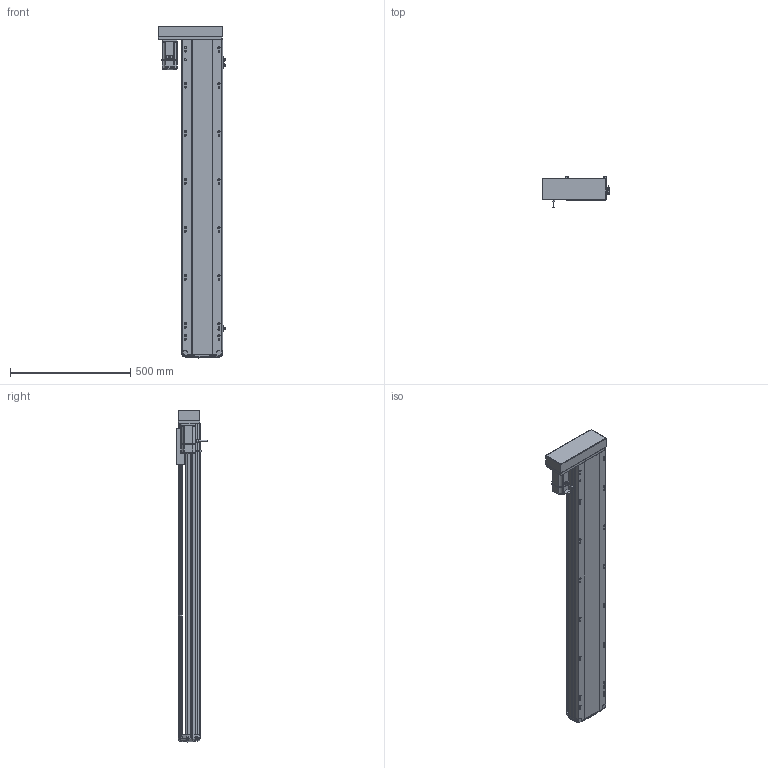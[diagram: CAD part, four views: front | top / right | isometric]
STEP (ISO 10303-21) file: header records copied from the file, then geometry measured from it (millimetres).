
FILE_DESCRIPTION (( 'STEP AP214' ), '1' );
FILE_NAME ('RTH17-XX-1100-R-M40-C4.STEP', '2025-10-24T08:59:30', ( '' ), ( '' ), 'SwSTEP 2.0', 'SolidWorks 2018', '' );
FILE_SCHEMA (( 'AUTOMOTIVE_DESIGN' ));
Length unit declared in the file: millimetre
Products named in the file (10): N_RTH17-L-018盖子^RTH17-XX-XX-R-M40-C4（方程式）; RTH17-XX-1100-R-M40-C4; N_RTH17-E-004丝杆螺母连接座^RTH17-XX-XX-R-M40-C4（方程式）; N_RTH17-L-008-P40电机安装板左转折^RTH17-XX-XX-R-M40-C4（方程式）; N_M40^RTH17-XX-XX-R-M40-C4（方程式）; N_RTH17-M-007上盖^RTH17-XX-XX-R-M40-C4（方程式）; N_RTH-BL-012 感应片(外置)^RTH17-XX-XX-R-M40-C4（方程式）; N_RTH17-M-011底座^RTH17-XX-XX-R-M40-C4（方程式）; N_RTH17-GY-001P^RTH17-XX-XX-R-M40-C4（方程式）; N_OMRON EE-SX672 換覜ん^RTH17-XX-XX-R-M40-C4ㄗ源最宒ㄘ
Assembly tree (11 placements, depth 2):
  RTH17-XX-1100-R-M40-C4
    N_RTH17-M-011底座^RTH17-XX-XX-R-M40-C4（方程式）
    N_RTH17-M-007上盖^RTH17-XX-XX-R-M40-C4（方程式）
    N_M40^RTH17-XX-XX-R-M40-C4（方程式）
    N_OMRON EE-SX672 換覜ん^RTH17-XX-XX-R-M40-C4ㄗ源最宒ㄘ  x3
    N_RTH-BL-012 感应片(外置)^RTH17-XX-XX-R-M40-C4（方程式）
    N_RTH17-L-008-P40电机安装板左转折^RTH17-XX-XX-R-M40-C4（方程式）
    N_RTH17-L-018盖子^RTH17-XX-XX-R-M40-C4（方程式）
    N_RTH17-E-004丝杆螺母连接座^RTH17-XX-XX-R-M40-C4（方程式）
    N_RTH17-GY-001P^RTH17-XX-XX-R-M40-C4（方程式）
Bounding box: 280.5 x 127 x 1382.99 mm (x, y, z)
Volume: 11551493.8 mm3; surface area: 1476528.9 mm2
Topology: 13 solids, 15 shells, 1695 faces, 4737 edges, 3090 vertices
Faces by surface type: plane 839, cylinder 489, bspline 330, cone 28, torus 9
Entity records: 50010 total; most frequent: CARTESIAN_POINT 20143, ORIENTED_EDGE 6498, DIRECTION 5359, EDGE_CURVE 3253, VERTEX_POINT 2126, LINE 1801, VECTOR 1801, AXIS2_PLACEMENT_3D 1779
